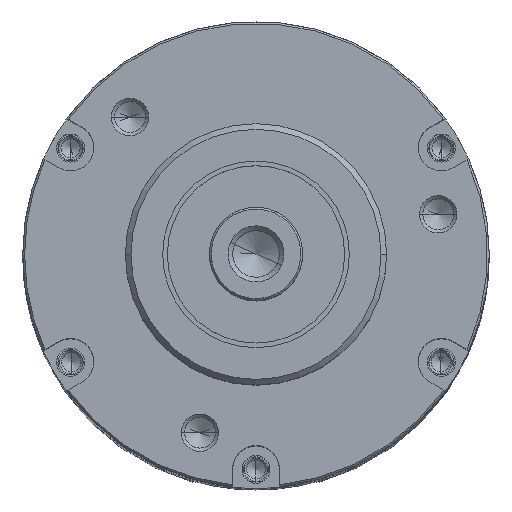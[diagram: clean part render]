
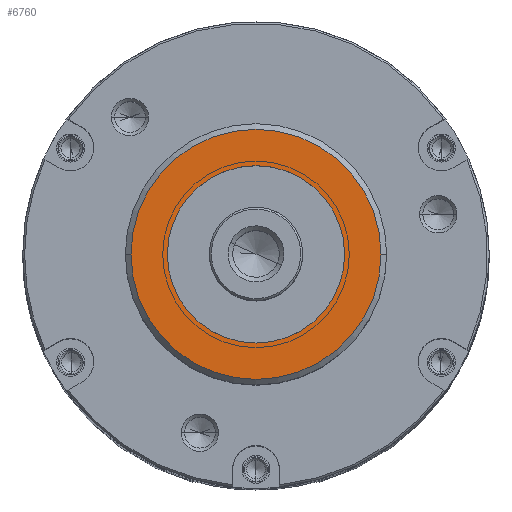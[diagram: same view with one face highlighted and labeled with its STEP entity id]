
A CAD part, top view. The second image highlights one B-rep face of the part: STEP entity #6760.
In plain terms, the highlighted planar face has unit normal (0, 0, 1).
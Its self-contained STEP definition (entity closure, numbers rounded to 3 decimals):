
#164 = EDGE_LOOP ( 'NONE', ( #724, #10908 ) ) ;
#286 = DIRECTION ( 'NONE',  ( -1., 0., 0. ) ) ;
#420 = CIRCLE ( 'NONE', #13863, 9.5 ) ;
#596 = DIRECTION ( 'NONE',  ( 0., 0., 1. ) ) ;
#686 = FACE_BOUND ( 'NONE', #9035, .T. ) ;
#724 = ORIENTED_EDGE ( 'NONE', *, *, #4261, .T. ) ;
#1423 = EDGE_CURVE ( 'NONE', #11316, #5698, #11738, .T. ) ;
#1524 = AXIS2_PLACEMENT_3D ( 'NONE', #1699, #14313, #12125 ) ;
#1601 = ORIENTED_EDGE ( 'NONE', *, *, #8181, .T. ) ;
#1673 = CARTESIAN_POINT ( 'NONE',  ( -49.373, 82.936, 104.785 ) ) ;
#1699 = CARTESIAN_POINT ( 'NONE',  ( -39.873, 82.936, 104.785 ) ) ;
#2028 = CARTESIAN_POINT ( 'NONE',  ( -53.273, 82.936, 104.785 ) ) ;
#2859 = CARTESIAN_POINT ( 'NONE',  ( -39.873, 82.936, 104.785 ) ) ;
#3592 = VERTEX_POINT ( 'NONE', #7392 ) ;
#3628 = EDGE_CURVE ( 'NONE', #3592, #4429, #9341, .T. ) ;
#4261 = EDGE_CURVE ( 'NONE', #4429, #3592, #12815, .T. ) ;
#4429 = VERTEX_POINT ( 'NONE', #2028 ) ;
#5698 = VERTEX_POINT ( 'NONE', #1673 ) ;
#5796 = DIRECTION ( 'NONE',  ( 0., 0., -1. ) ) ;
#5916 = PLANE ( 'NONE',  #8341 ) ;
#6623 = ORIENTED_EDGE ( 'NONE', *, *, #1423, .T. ) ;
#6760 = ADVANCED_FACE ( 'NONE', ( #9087, #686 ), #5916, .T. ) ;
#7392 = CARTESIAN_POINT ( 'NONE',  ( -26.473, 82.936, 104.785 ) ) ;
#7428 = AXIS2_PLACEMENT_3D ( 'NONE', #12371, #14635, #9983 ) ;
#8181 = EDGE_CURVE ( 'NONE', #5698, #11316, #420, .T. ) ;
#8341 = AXIS2_PLACEMENT_3D ( 'NONE', #10729, #11815, #8342 ) ;
#8342 = DIRECTION ( 'NONE',  ( 1., 0., 0. ) ) ;
#8625 = DIRECTION ( 'NONE',  ( 1., 0., 0. ) ) ;
#9035 = EDGE_LOOP ( 'NONE', ( #1601, #6623 ) ) ;
#9087 = FACE_OUTER_BOUND ( 'NONE', #164, .T. ) ;
#9341 = CIRCLE ( 'NONE', #1524, 13.4 ) ;
#9983 = DIRECTION ( 'NONE',  ( -1., 0., 0. ) ) ;
#10355 = AXIS2_PLACEMENT_3D ( 'NONE', #2859, #596, #8625 ) ;
#10437 = CARTESIAN_POINT ( 'NONE',  ( -39.873, 82.936, 104.785 ) ) ;
#10729 = CARTESIAN_POINT ( 'NONE',  ( -39.873, 92.436, 104.785 ) ) ;
#10908 = ORIENTED_EDGE ( 'NONE', *, *, #3628, .T. ) ;
#11316 = VERTEX_POINT ( 'NONE', #11793 ) ;
#11738 = CIRCLE ( 'NONE', #7428, 9.5 ) ;
#11793 = CARTESIAN_POINT ( 'NONE',  ( -30.373, 82.936, 104.785 ) ) ;
#11815 = DIRECTION ( 'NONE',  ( 0., 0., 1. ) ) ;
#12125 = DIRECTION ( 'NONE',  ( 1., 0., 0. ) ) ;
#12371 = CARTESIAN_POINT ( 'NONE',  ( -39.873, 82.936, 104.785 ) ) ;
#12815 = CIRCLE ( 'NONE', #10355, 13.4 ) ;
#13863 = AXIS2_PLACEMENT_3D ( 'NONE', #10437, #5796, #286 ) ;
#14313 = DIRECTION ( 'NONE',  ( 0., 0., 1. ) ) ;
#14635 = DIRECTION ( 'NONE',  ( 0., 0., -1. ) ) ;
